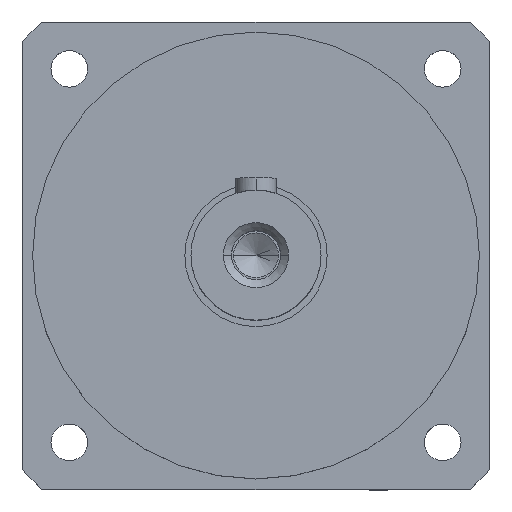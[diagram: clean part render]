
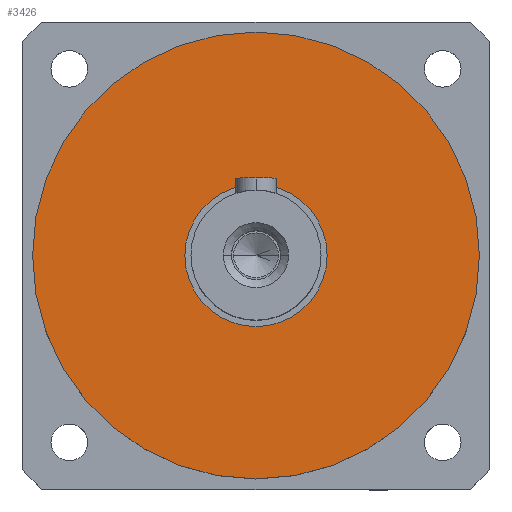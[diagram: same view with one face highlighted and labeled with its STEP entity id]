
A CAD part, top view. The second image highlights one B-rep face of the part: STEP entity #3426.
In plain terms, the highlighted planar face has unit normal (0, 0, 1).
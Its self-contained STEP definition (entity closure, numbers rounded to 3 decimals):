
#4 = AXIS2_PLACEMENT_3D ( 'NONE', #2824, #2813, #2799 ) ;
#30 = CIRCLE ( 'NONE', #374, 17.5 ) ;
#42 = AXIS2_PLACEMENT_3D ( 'NONE', #3199, #1310, #3540 ) ;
#95 = AXIS2_PLACEMENT_3D ( 'NONE', #965, #1932, #4171 ) ;
#371 = EDGE_LOOP ( 'NONE', ( #4054, #3280 ) ) ;
#374 = AXIS2_PLACEMENT_3D ( 'NONE', #3097, #1192, #3422 ) ;
#579 = CARTESIAN_POINT ( 'NONE',  ( -55., 0., 12. ) ) ;
#638 = VERTEX_POINT ( 'NONE', #1088 ) ;
#713 = CARTESIAN_POINT ( 'NONE',  ( 0., 0., 12. ) ) ;
#768 = VERTEX_POINT ( 'NONE', #2999 ) ;
#817 = VERTEX_POINT ( 'NONE', #3071 ) ;
#965 = CARTESIAN_POINT ( 'NONE',  ( 0., 0., 12. ) ) ;
#1056 = DIRECTION ( 'NONE',  ( -1., 0., 0. ) ) ;
#1081 = EDGE_LOOP ( 'NONE', ( #1961, #3772 ) ) ;
#1088 = CARTESIAN_POINT ( 'NONE',  ( 17.5, 0., 12. ) ) ;
#1149 = EDGE_CURVE ( 'NONE', #1288, #817, #1209, .T. ) ;
#1192 = DIRECTION ( 'NONE',  ( 0., 0., -1. ) ) ;
#1209 = CIRCLE ( 'NONE', #4, 55. ) ;
#1288 = VERTEX_POINT ( 'NONE', #579 ) ;
#1310 = DIRECTION ( 'NONE',  ( 0., 0., -1. ) ) ;
#1629 = AXIS2_PLACEMENT_3D ( 'NONE', #713, #2957, #1056 ) ;
#1932 = DIRECTION ( 'NONE',  ( 0., 0., -1. ) ) ;
#1961 = ORIENTED_EDGE ( 'NONE', *, *, #1149, .F. ) ;
#2151 = CIRCLE ( 'NONE', #42, 55. ) ;
#2559 = PLANE ( 'NONE',  #95 ) ;
#2775 = FACE_OUTER_BOUND ( 'NONE', #1081, .T. ) ;
#2799 = DIRECTION ( 'NONE',  ( -1., 0., 0. ) ) ;
#2813 = DIRECTION ( 'NONE',  ( 0., 0., -1. ) ) ;
#2824 = CARTESIAN_POINT ( 'NONE',  ( 0., 0., 12. ) ) ;
#2904 = EDGE_CURVE ( 'NONE', #817, #1288, #2151, .T. ) ;
#2957 = DIRECTION ( 'NONE',  ( 0., 0., -1. ) ) ;
#2999 = CARTESIAN_POINT ( 'NONE',  ( -17.5, 0., 12. ) ) ;
#3071 = CARTESIAN_POINT ( 'NONE',  ( 55., 0., 12. ) ) ;
#3097 = CARTESIAN_POINT ( 'NONE',  ( 0., 0., 12. ) ) ;
#3129 = CIRCLE ( 'NONE', #1629, 17.5 ) ;
#3199 = CARTESIAN_POINT ( 'NONE',  ( 0., 0., 12. ) ) ;
#3280 = ORIENTED_EDGE ( 'NONE', *, *, #3961, .T. ) ;
#3422 = DIRECTION ( 'NONE',  ( -1., 0., 0. ) ) ;
#3426 = ADVANCED_FACE ( 'NONE', ( #3638, #2775 ), #2559, .F. ) ;
#3540 = DIRECTION ( 'NONE',  ( -1., 0., 0. ) ) ;
#3610 = EDGE_CURVE ( 'NONE', #768, #638, #3129, .T. ) ;
#3638 = FACE_BOUND ( 'NONE', #371, .T. ) ;
#3772 = ORIENTED_EDGE ( 'NONE', *, *, #2904, .F. ) ;
#3961 = EDGE_CURVE ( 'NONE', #638, #768, #30, .T. ) ;
#4054 = ORIENTED_EDGE ( 'NONE', *, *, #3610, .T. ) ;
#4171 = DIRECTION ( 'NONE',  ( -1., 0., 0. ) ) ;
